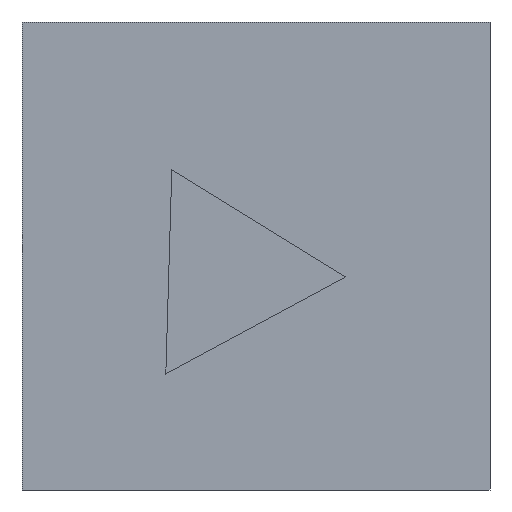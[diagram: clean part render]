
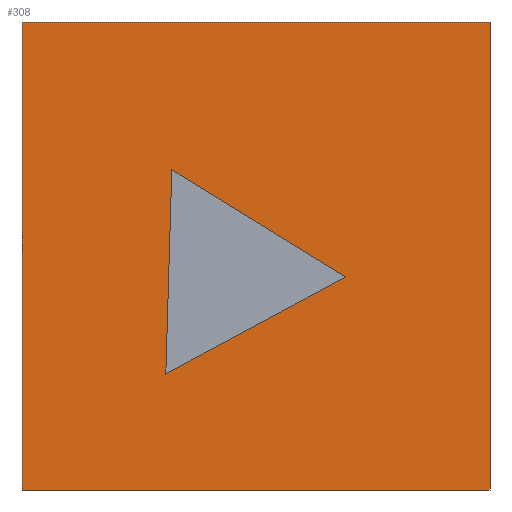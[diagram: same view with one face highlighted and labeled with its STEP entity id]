
A CAD part, left-side view. The second image highlights one B-rep face of the part: STEP entity #308.
In plain terms, the highlighted planar face has unit normal (-1, 0, 0).
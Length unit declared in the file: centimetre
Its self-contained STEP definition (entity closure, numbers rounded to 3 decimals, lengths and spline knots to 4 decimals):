
#4 = LINE ( 'NONE', #387, #701 ) ;
#6 = CARTESIAN_POINT ( 'NONE',  ( 0., 1000., 0. ) ) ;
#14 = CARTESIAN_POINT ( 'NONE',  ( 0., 0., 1000. ) ) ;
#15 = PLANE ( 'NONE',  #45 ) ;
#35 = EDGE_CURVE ( 'NONE', #235, #376, #260, .T. ) ;
#37 = VERTEX_POINT ( 'NONE', #584 ) ;
#45 = AXIS2_PLACEMENT_3D ( 'NONE', #682, #468, #460 ) ;
#56 = CARTESIAN_POINT ( 'NONE',  ( 0., 1000., 1000. ) ) ;
#65 = VECTOR ( 'NONE', #378, 100. ) ;
#78 = ORIENTED_EDGE ( 'NONE', *, *, #634, .T. ) ;
#81 = EDGE_LOOP ( 'NONE', ( #78, #538, #473, #512 ) ) ;
#96 = DIRECTION ( 'NONE',  ( 0., 0., -1. ) ) ;
#97 = EDGE_CURVE ( 'NONE', #539, #131, #114, .T. ) ;
#100 = CARTESIAN_POINT ( 'NONE',  ( 0., 1000., 0. ) ) ;
#114 = LINE ( 'NONE', #340, #148 ) ;
#115 = LINE ( 'NONE', #6, #497 ) ;
#117 = CARTESIAN_POINT ( 'NONE',  ( 0., 1000., 1000. ) ) ;
#124 = CARTESIAN_POINT ( 'NONE',  ( 0., 308.0585, 455.148 ) ) ;
#131 = VERTEX_POINT ( 'NONE', #100 ) ;
#142 = CARTESIAN_POINT ( 'NONE',  ( 0., 692.7302, 247.8405 ) ) ;
#144 = EDGE_CURVE ( 'NONE', #37, #235, #615, .T. ) ;
#148 = VECTOR ( 'NONE', #454, 100. ) ;
#152 = CARTESIAN_POINT ( 'NONE',  ( 0., 679.9279, 684.6298 ) ) ;
#154 = LINE ( 'NONE', #380, #275 ) ;
#172 = CARTESIAN_POINT ( 'NONE',  ( 0., 0., 0. ) ) ;
#217 = EDGE_CURVE ( 'NONE', #539, #619, #329, .T. ) ;
#235 = VERTEX_POINT ( 'NONE', #504 ) ;
#244 = VERTEX_POINT ( 'NONE', #172 ) ;
#260 = LINE ( 'NONE', #142, #284 ) ;
#275 = VECTOR ( 'NONE', #96, 100. ) ;
#284 = VECTOR ( 'NONE', #368, 100. ) ;
#308 = ADVANCED_FACE ( 'NONE', ( #411, #570 ), #15, .F. ) ;
#329 = LINE ( 'NONE', #117, #509 ) ;
#340 = CARTESIAN_POINT ( 'NONE',  ( 0., 1000., 1000. ) ) ;
#368 = DIRECTION ( 'NONE',  ( 0., -0.88, 0.474 ) ) ;
#376 = VERTEX_POINT ( 'NONE', #124 ) ;
#378 = DIRECTION ( 'NONE',  ( 0., 0.029, -1. ) ) ;
#380 = CARTESIAN_POINT ( 'NONE',  ( 0., 0., 1000. ) ) ;
#387 = CARTESIAN_POINT ( 'NONE',  ( 0., 308.0585, 455.148 ) ) ;
#394 = EDGE_LOOP ( 'NONE', ( #673, #677, #626 ) ) ;
#411 = FACE_BOUND ( 'NONE', #394, .T. ) ;
#423 = EDGE_CURVE ( 'NONE', #376, #37, #4, .T. ) ;
#452 = DIRECTION ( 'NONE',  ( 0., -1., 0. ) ) ;
#454 = DIRECTION ( 'NONE',  ( 0., 0., -1. ) ) ;
#460 = DIRECTION ( 'NONE',  ( 0., 0., -1. ) ) ;
#468 = DIRECTION ( 'NONE',  ( 1., 0., 0. ) ) ;
#473 = ORIENTED_EDGE ( 'NONE', *, *, #217, .F. ) ;
#491 = EDGE_CURVE ( 'NONE', #619, #244, #154, .T. ) ;
#497 = VECTOR ( 'NONE', #452, 100. ) ;
#504 = CARTESIAN_POINT ( 'NONE',  ( 0., 692.7302, 247.8405 ) ) ;
#509 = VECTOR ( 'NONE', #557, 100. ) ;
#512 = ORIENTED_EDGE ( 'NONE', *, *, #97, .T. ) ;
#538 = ORIENTED_EDGE ( 'NONE', *, *, #491, .F. ) ;
#539 = VERTEX_POINT ( 'NONE', #56 ) ;
#557 = DIRECTION ( 'NONE',  ( 0., -1., 0. ) ) ;
#570 = FACE_OUTER_BOUND ( 'NONE', #81, .T. ) ;
#584 = CARTESIAN_POINT ( 'NONE',  ( 0., 679.9279, 684.6298 ) ) ;
#600 = DIRECTION ( 'NONE',  ( 0., 0.851, 0.525 ) ) ;
#615 = LINE ( 'NONE', #152, #65 ) ;
#619 = VERTEX_POINT ( 'NONE', #14 ) ;
#626 = ORIENTED_EDGE ( 'NONE', *, *, #144, .F. ) ;
#634 = EDGE_CURVE ( 'NONE', #131, #244, #115, .T. ) ;
#673 = ORIENTED_EDGE ( 'NONE', *, *, #423, .F. ) ;
#677 = ORIENTED_EDGE ( 'NONE', *, *, #35, .F. ) ;
#682 = CARTESIAN_POINT ( 'NONE',  ( 0., 1000., 1000. ) ) ;
#701 = VECTOR ( 'NONE', #600, 100. ) ;
